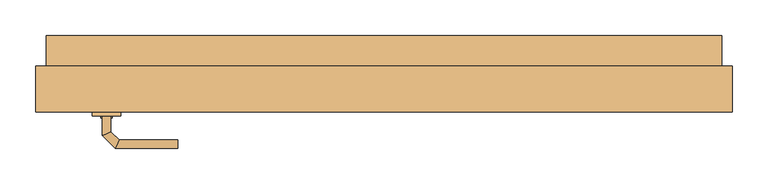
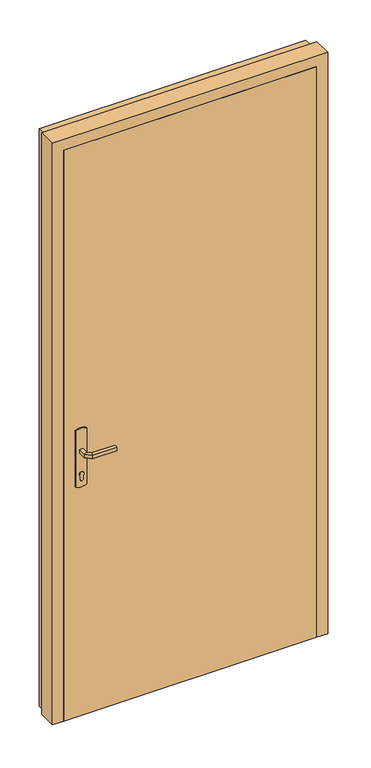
"""IFC4 building model written with IfcOpenShell, lengths in millimetres: door geometry, Entrée (avec angle d'ouverture) : PP Avec moulures (0.90 m x 2.15 m)."""

from ifc_helpers import new_model, si_unit, point, frame, frame_2d, origin, place, context, project, spatial, polyline, circle_curve, ellipse_curve, trimmed, segment, composite_curve, outline, extrude, faceted_brep, source, transform, mapped, element, save
from ifc_brep_helpers import plane_surface, cylinder_surface, advanced_brep


def door_c2c5d6f6(model_context):
    return source(origin(), model_context, "Body", "SolidModel", [
        extrude(outline(composite_curve([segment(trimmed(circle_curve(frame_2d((904.6410162, -400.0)), 40.0), [point((870.0, -420.0))], [point((870.0, -380.0))], False, "CARTESIAN"), True, "CONTINUOUS"), segment(polyline([(870.0, -380.0), (1080.0, -380.0)]), True, "CONTINUOUS"), segment(trimmed(circle_curve(frame_2d((1045.3589838, -400.0)), 40.0), [point((1080.0, -380.0))], [point((1080.0, -420.0))], False, "CARTESIAN"), True, "CONTINUOUS"), segment(polyline([(1080.0, -420.0), (870.0, -420.0)]), True, "CONTINUOUS")], self_intersect=False)), frame((0.0, -113.0, 0.0), z_axis=(0.0, 1.0, 0.0), x_axis=(0.0, 0.0, 1.0)), (0.0, 0.0, 1.0), 5.0),
        extrude(outline(composite_curve([segment(trimmed(circle_curve(frame_2d((1045.3589838, -400.0)), 40.0), [point((1080.0, -380.0))], [point((1080.0, -420.0))], False, "CARTESIAN"), True, "CONTINUOUS"), segment(polyline([(1080.0, -420.0), (870.0, -420.0)]), True, "CONTINUOUS"), segment(trimmed(circle_curve(frame_2d((904.6410162, -400.0)), 40.0), [point((870.0, -420.0))], [point((870.0, -380.0))], False, "CARTESIAN"), True, "CONTINUOUS"), segment(polyline([(870.0, -380.0), (1080.0, -380.0)]), True, "CONTINUOUS")], self_intersect=False)), frame((0.0, -58.0, 0.0), z_axis=(0.0, 1.0, 0.0), x_axis=(0.0, 0.0, 1.0)), (0.0, 0.0, 1.0), 5.0),
        advanced_brep(
        [(-406.0, -113.0, 1007.0), (-394.0, -113.0, 1007.0), (-394.0, -113.0, 993.0), (-406.0, -113.0, 993.0), (-406.0, -140.6509507, 1007.0), (-394.0, -135.680388, 1007.0), (-394.0, -135.680388, 993.0), (-406.0, -140.6509507, 993.0), (-387.62279, -159.0281607, 1007.0), (-382.6522273, -147.0281607, 1007.0), (-382.6522273, -147.0281607, 993.0), (-387.62279, -159.0281607, 993.0), (-299.9813594, -159.0281607, 1007.0), (-299.9813594, -159.0281607, 993.0), (-299.9813594, -147.0281607, 993.0), (-299.9813594, -147.0281607, 1007.0)],
        [
            (0, 1, circle_curve(frame((-400.0, -113.0, 986.9542278), z_axis=(0.0, 1.0, 0.0), x_axis=(1.0, 0.0, 0.0)), 20.9244589)),
            (1, 2),
            (2, 3, circle_curve(frame((-400.0, -113.0, 1013.0457722), z_axis=(0.0, 1.0, 0.0), x_axis=(1.0, 0.0, 0.0)), 20.9244589)),
            (3, 0),
            (0, 4),
            (4, 5, ellipse_curve(frame((-400.0, -138.1656693, 986.9542278), z_axis=(-0.3826834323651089, 0.9238795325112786, 0.0), x_axis=(0.9238795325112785, 0.3826834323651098, 0.0)), 22.6484711, 20.9244589)),
            (5, 1),
            (5, 6),
            (6, 2),
            (6, 7, ellipse_curve(frame((-400.0, -138.1656693, 1013.0457722), z_axis=(-0.3826834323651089, 0.9238795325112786, 0.0), x_axis=(0.9238795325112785, 0.3826834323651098, 0.0)), 22.6484711, 20.9244589)),
            (7, 3),
            (7, 4),
            (4, 8),
            (8, 9, ellipse_curve(frame((-385.1375087, -153.0281607, 986.9542278), z_axis=(-0.9238795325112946, 0.38268343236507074, 0.0), x_axis=(0.3826834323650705, 0.9238795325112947, 0.0)), 22.6484711, 20.9244589)),
            (9, 5),
            (9, 10),
            (10, 6),
            (10, 11, ellipse_curve(frame((-385.1375087, -153.0281607, 1013.0457722), z_axis=(-0.9238795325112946, 0.38268343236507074, 0.0), x_axis=(0.3826834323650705, 0.9238795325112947, 0.0)), 22.6484711, 20.9244589)),
            (11, 7),
            (11, 8),
            (12, 13),
            (13, 14, circle_curve(frame((-299.9813594, -153.0281607, 1013.0457722), z_axis=(1.0, 0.0, 0.0), x_axis=(0.0, 1.0, 0.0)), 20.9244589)),
            (14, 15),
            (15, 12, circle_curve(frame((-299.9813594, -153.0281607, 986.9542278), z_axis=(1.0, 0.0, 0.0), x_axis=(0.0, 1.0, 0.0)), 20.9244589)),
            (8, 12),
            (15, 9),
            (14, 10),
            (13, 11),
        ],
        [
            plane_surface(frame((-409.2195445, -113.0, 1000.0), z_axis=(0.0, 1.0, 0.0), x_axis=(0.0, 0.0, -1.0))),
            cylinder_surface(frame((-400.0, -113.0, 986.9542278), z_axis=(0.0, 1.0, 0.0), x_axis=(1.0, 0.0, 0.0)), 20.9244589),
            plane_surface(frame((-394.0, -113.0, 1007.0), z_axis=(1.0, 0.0, 0.0), x_axis=(0.0, -1.0, 0.0))),
            cylinder_surface(frame((-400.0, -113.0, 1013.0457722), z_axis=(0.0, 1.0, 0.0), x_axis=(1.0, 0.0, 0.0)), 20.9244589),
            plane_surface(frame((-406.0, -113.0, 993.0), z_axis=(-1.0, 0.0, 0.0), x_axis=(0.0, -1.0, 0.0))),
            cylinder_surface(frame((-400.0, -138.1656693, 986.9542278), z_axis=(-0.7071067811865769, 0.7071067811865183, 0.0), x_axis=(0.7071067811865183, 0.7071067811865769, 0.0)), 20.9244589),
            plane_surface(frame((-394.0, -135.680388, 1007.0), z_axis=(0.7071067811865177, 0.7071067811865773, 0.0), x_axis=(0.7071067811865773, -0.7071067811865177, 0.0))),
            cylinder_surface(frame((-400.0, -138.1656693, 1013.0457722), z_axis=(-0.7071067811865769, 0.7071067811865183, 0.0), x_axis=(0.7071067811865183, 0.7071067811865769, 0.0)), 20.9244589),
            plane_surface(frame((-406.0, -140.6509507, 993.0), z_axis=(-0.7071067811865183, -0.7071067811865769, 0.0), x_axis=(0.7071067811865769, -0.7071067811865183, 0.0))),
            plane_surface(frame((-299.9813594, -153.0281607, 990.7804555), z_axis=(1.0, 0.0, 0.0), x_axis=(0.0, 1.0, 0.0))),
            cylinder_surface(frame((-385.1375087, -153.0281607, 986.9542278), z_axis=(-1.0, 0.0, 0.0), x_axis=(0.0, 1.0, 0.0)), 20.9244589),
            plane_surface(frame((-382.6522273, -147.0281607, 1007.0), z_axis=(0.0, 1.0, 0.0), x_axis=(1.0, 0.0, 0.0))),
            cylinder_surface(frame((-385.1375087, -153.0281607, 1013.0457722), z_axis=(-1.0, 0.0, 0.0), x_axis=(0.0, 1.0, 0.0)), 20.9244589),
            plane_surface(frame((-387.62279, -159.0281607, 993.0), z_axis=(0.0, -1.0, 0.0), x_axis=(1.0, 0.0, 0.0))),
        ],
        [
            (0, [[1, 2, 3, 4]]),
            (1, [[-1, 5, 6, 7]]),
            (2, [[-2, -7, 8, 9]]),
            (3, [[-3, -9, 10, 11]]),
            (4, [[-4, -11, 12, -5]]),
            (5, [[-6, 13, 14, 15]]),
            (6, [[-8, -15, 16, 17]]),
            (7, [[-10, -17, 18, 19]]),
            (8, [[-12, -19, 20, -13]]),
            (9, [[21, 22, 23, 24]]),
            (10, [[-14, 25, -24, 26]]),
            (11, [[-16, -26, -23, 27]]),
            (12, [[-18, -27, -22, 28]]),
            (13, [[-20, -28, -21, -25]]),
        ],
    ),
        advanced_brep(
        [(-394.0, -53.0, 993.0), (-394.0, -53.0, 1007.0), (-406.0, -53.0, 1007.0), (-406.0, -53.0, 993.0), (-394.0, -30.5147955, 993.0), (-394.0, -30.5147955, 1007.0), (-406.0, -25.5442327, 1007.0), (-406.0, -25.5442327, 993.0), (-382.5147186, -19.0295141, 993.0), (-382.5147186, -19.0295141, 1007.0), (-387.4852814, -7.0295141, 1007.0), (-387.4852814, -7.0295141, 993.0), (-299.9542164, -19.0295141, 993.0), (-299.9542164, -7.0295141, 993.0), (-299.9542164, -7.0295141, 1007.0), (-299.9542164, -19.0295141, 1007.0)],
        [
            (0, 1),
            (1, 2, circle_curve(frame((-400.0, -53.0, 986.9542278), z_axis=(0.0, -1.0, 0.0), x_axis=(-1.0, 0.0, 0.0)), 20.9244589)),
            (2, 3),
            (3, 0, circle_curve(frame((-400.0, -53.0, 1013.0457722), z_axis=(0.0, -1.0, 0.0), x_axis=(-1.0, 0.0, 0.0)), 20.9244589)),
            (0, 4),
            (4, 5),
            (5, 1),
            (5, 6, ellipse_curve(frame((-400.0, -28.0295141, 986.9542278), z_axis=(-0.3826834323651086, -0.923879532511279, 0.0), x_axis=(0.9238795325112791, -0.3826834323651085, 0.0)), 22.6484711, 20.9244589)),
            (6, 2),
            (6, 7),
            (7, 3),
            (7, 4, ellipse_curve(frame((-400.0, -28.0295141, 1013.0457722), z_axis=(-0.3826834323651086, -0.923879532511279, 0.0), x_axis=(0.9238795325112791, -0.3826834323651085, 0.0)), 22.6484711, 20.9244589)),
            (4, 8),
            (8, 9),
            (9, 5),
            (9, 10, ellipse_curve(frame((-385.0, -13.0295141, 986.9542278), z_axis=(-0.9238795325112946, -0.38268343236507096, 0.0), x_axis=(0.3826834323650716, -0.9238795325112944, 0.0)), 22.6484711, 20.9244589)),
            (10, 6),
            (10, 11),
            (11, 7),
            (11, 8, ellipse_curve(frame((-385.0, -13.0295141, 1013.0457722), z_axis=(-0.9238795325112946, -0.38268343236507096, 0.0), x_axis=(0.3826834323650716, -0.9238795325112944, 0.0)), 22.6484711, 20.9244589)),
            (12, 13, circle_curve(frame((-299.9542164, -13.0295141, 1013.0457722), z_axis=(1.0, 0.0, 0.0), x_axis=(0.0, 1.0, 0.0)), 20.9244589)),
            (13, 14),
            (14, 15, circle_curve(frame((-299.9542164, -13.0295141, 986.9542278), z_axis=(1.0, 0.0, 0.0), x_axis=(0.0, 1.0, 0.0)), 20.9244589)),
            (15, 12),
            (8, 12),
            (15, 9),
            (14, 10),
            (13, 11),
        ],
        [
            plane_surface(frame((-409.2195445, -53.0, 1000.0), z_axis=(0.0, -1.0, 0.0), x_axis=(0.0, 0.0, 1.0))),
            plane_surface(frame((-394.0, -53.0, 993.0), z_axis=(1.0, 0.0, 0.0), x_axis=(0.0, 1.0, 0.0))),
            cylinder_surface(frame((-400.0, -53.0, 986.9542278), z_axis=(0.0, -1.0, 0.0), x_axis=(-1.0, 0.0, 0.0)), 20.9244589),
            plane_surface(frame((-406.0, -53.0, 1007.0), z_axis=(-1.0, 0.0, 0.0), x_axis=(0.0, 1.0, 0.0))),
            cylinder_surface(frame((-400.0, -53.0, 1013.0457722), z_axis=(0.0, -1.0, 0.0), x_axis=(-1.0, 0.0, 0.0)), 20.9244589),
            plane_surface(frame((-394.0, -30.5147955, 993.0), z_axis=(0.7071067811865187, -0.7071067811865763, 0.0), x_axis=(0.7071067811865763, 0.7071067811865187, 0.0))),
            cylinder_surface(frame((-400.0, -28.0295141, 986.9542278), z_axis=(-0.7071067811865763, -0.7071067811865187, 0.0), x_axis=(-0.7071067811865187, 0.7071067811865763, 0.0)), 20.9244589),
            plane_surface(frame((-406.0, -25.5442327, 1007.0), z_axis=(-0.7071067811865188, 0.7071067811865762, 0.0), x_axis=(0.7071067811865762, 0.7071067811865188, 0.0))),
            cylinder_surface(frame((-400.0, -28.0295141, 1013.0457722), z_axis=(-0.7071067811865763, -0.7071067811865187, 0.0), x_axis=(-0.7071067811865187, 0.7071067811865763, 0.0)), 20.9244589),
            plane_surface(frame((-299.9542164, -13.0295141, 990.7804555), z_axis=(1.0, 0.0, 0.0), x_axis=(0.0, 1.0, 0.0))),
            plane_surface(frame((-382.5147186, -19.0295141, 993.0), z_axis=(0.0, -1.0, 0.0), x_axis=(1.0, 0.0, 0.0))),
            cylinder_surface(frame((-385.0, -13.0295141, 986.9542278), z_axis=(-1.0, 0.0, 0.0), x_axis=(0.0, 1.0, 0.0)), 20.9244589),
            plane_surface(frame((-387.4852814, -7.0295141, 1007.0), z_axis=(0.0, 1.0, 0.0), x_axis=(1.0, 0.0, 0.0))),
            cylinder_surface(frame((-385.0, -13.0295141, 1013.0457722), z_axis=(-1.0, 0.0, 0.0), x_axis=(0.0, 1.0, 0.0)), 20.9244589),
        ],
        [
            (0, [[1, 2, 3, 4]]),
            (1, [[-1, 5, 6, 7]]),
            (2, [[-2, -7, 8, 9]]),
            (3, [[-3, -9, 10, 11]]),
            (4, [[-4, -11, 12, -5]]),
            (5, [[-6, 13, 14, 15]]),
            (6, [[-8, -15, 16, 17]]),
            (7, [[-10, -17, 18, 19]]),
            (8, [[-12, -19, 20, -13]]),
            (9, [[21, 22, 23, 24]]),
            (10, [[-14, 25, -24, 26]]),
            (11, [[-16, -26, -23, 27]]),
            (12, [[-18, -27, -22, 28]]),
            (13, [[-20, -28, -21, -25]]),
        ],
    ),
        extrude(outline(composite_curve([segment(polyline([(908.0464422, -405.0), (895.0, -405.0)]), True, "CONTINUOUS"), segment(trimmed(circle_curve(frame_2d((895.0, -400.0)), 5.0), [point((895.0, -405.0))], [point((895.0, -395.0))], False, "CARTESIAN"), True, "CONTINUOUS"), segment(polyline([(895.0, -395.0), (908.0464422, -395.0)]), True, "CONTINUOUS"), segment(trimmed(circle_curve(frame_2d((914.2914402, -400.0)), 8.0), [point((908.0464422, -395.0))], [point((908.0464422, -405.0))], False, "CARTESIAN"), True, "CONTINUOUS")], self_intersect=False)), frame((0.0, -116.0, 0.0), z_axis=(0.0, 1.0, 0.0), x_axis=(0.0, 0.0, 1.0)), (0.0, 0.0, 1.0), 3.0),
        extrude(outline(composite_curve([segment(polyline([(908.0464422, -405.0), (895.0, -405.0)]), True, "CONTINUOUS"), segment(trimmed(circle_curve(frame_2d((895.0, -400.0)), 5.0), [point((895.0, -405.0))], [point((895.0, -395.0))], False, "CARTESIAN"), True, "CONTINUOUS"), segment(polyline([(895.0, -395.0), (908.0464422, -395.0)]), True, "CONTINUOUS"), segment(trimmed(circle_curve(frame_2d((914.2914402, -400.0)), 8.0), [point((908.0464422, -395.0))], [point((908.0464422, -405.0))], False, "CARTESIAN"), True, "CONTINUOUS")], self_intersect=False)), frame((0.0, -53.0, 0.0), z_axis=(0.0, 1.0, 0.0), x_axis=(0.0, 0.0, 1.0)), (0.0, 0.0, 1.0), 5.0),
        faceted_brep([(440.0, -108.0, 2150.0), (-460.0, -108.0, 2150.0), (-460.0, -108.0, 0.0), (440.0, -108.0, 0.0), (440.0, -58.0, 2150.0), (440.0, -58.0, 0.0), (-460.0, -58.0, 0.0), (-460.0, -58.0, 2150.0), (-340.0, -58.0, 2030.0), (-340.0, -58.0, 883.3333333), (320.0, -58.0, 883.3333333), (320.0, -58.0, 2030.0), (20.0, -58.0, 763.3333333), (20.0, -58.0, 220.0), (320.0, -58.0, 220.0), (320.0, -58.0, 763.3333333), (-340.0, -58.0, 763.3333333), (-340.0, -58.0, 220.0), (-40.0, -58.0, 220.0), (-40.0, -58.0, 763.3333333), (-305.0, -58.0, 918.3333333), (-305.0, -58.0, 1995.0), (285.0, -58.0, 1995.0), (285.0, -58.0, 918.3333333), (55.0, -58.0, 255.0), (55.0, -58.0, 728.3333333), (285.0, -58.0, 728.3333333), (285.0, -58.0, 255.0), (-305.0, -58.0, 255.0), (-305.0, -58.0, 728.3333333), (-75.0, -58.0, 728.3333333), (-75.0, -58.0, 255.0), (-336.4644661, -61.5355339, 2026.4644661), (-336.4644661, -61.5355339, 886.8688672), (-308.5355339, -61.5355339, 914.7977994), (-308.5355339, -61.5355339, 1998.5355339), (-312.6388478, -59.8966861, 910.6944856), (-312.6388478, -59.8966861, 2002.6388478), (-311.0, -61.5355339, 2001.0), (-311.0, -61.5355339, 912.3333333), (-334.0, -61.5355339, 889.3333333), (-334.0, -61.5355339, 2024.0), (-332.3611522, -59.8966861, 2022.3611522), (-332.3611522, -59.8966861, 890.9721811), (316.4644661, -61.5355339, 2026.4644661), (288.5355339, -61.5355339, 1998.5355339), (292.6388478, -59.8966861, 2002.6388478), (291.0, -61.5355339, 2001.0), (314.0, -61.5355339, 2024.0), (312.3611522, -59.8966861, 2022.3611522), (316.4644661, -61.5355339, 886.8688672), (288.5355339, -61.5355339, 914.7977994), (292.6388478, -59.8966861, 910.6944856), (291.0, -61.5355339, 912.3333333), (314.0, -61.5355339, 889.3333333), (312.3611522, -59.8966861, 890.9721811), (23.5355339, -61.5355339, 759.7977994), (23.5355339, -61.5355339, 223.5355339), (51.4644661, -61.5355339, 251.4644661), (51.4644661, -61.5355339, 731.8688672), (47.3611522, -59.8966861, 247.3611522), (47.3611522, -59.8966861, 735.9721811), (49.0, -61.5355339, 734.3333333), (49.0, -61.5355339, 249.0), (26.0, -61.5355339, 226.0), (26.0, -61.5355339, 757.3333333), (27.6388478, -59.8966861, 755.6944856), (27.6388478, -59.8966861, 227.6388478), (316.4644661, -61.5355339, 759.7977994), (288.5355339, -61.5355339, 731.8688672), (292.6388478, -59.8966861, 735.9721811), (291.0, -61.5355339, 734.3333333), (314.0, -61.5355339, 757.3333333), (312.3611522, -59.8966861, 755.6944856), (316.4644661, -61.5355339, 223.5355339), (288.5355339, -61.5355339, 251.4644661), (292.6388478, -59.8966861, 247.3611522), (291.0, -61.5355339, 249.0), (314.0, -61.5355339, 226.0), (312.3611522, -59.8966861, 227.6388478), (-336.4644661, -61.5355339, 759.7977994), (-336.4644661, -61.5355339, 223.5355339), (-308.5355339, -61.5355339, 251.4644661), (-308.5355339, -61.5355339, 731.8688672), (-312.6388478, -59.8966861, 247.3611522), (-312.6388478, -59.8966861, 735.9721811), (-311.0, -61.5355339, 734.3333333), (-311.0, -61.5355339, 249.0), (-334.0, -61.5355339, 226.0), (-334.0, -61.5355339, 757.3333333), (-332.3611522, -59.8966861, 755.6944856), (-332.3611522, -59.8966861, 227.6388478), (-43.5355339, -61.5355339, 759.7977994), (-71.4644661, -61.5355339, 731.8688672), (-67.3611522, -59.8966861, 735.9721811), (-69.0, -61.5355339, 734.3333333), (-46.0, -61.5355339, 757.3333333), (-47.6388478, -59.8966861, 755.6944856), (-43.5355339, -61.5355339, 223.5355339), (-71.4644661, -61.5355339, 251.4644661), (-67.3611522, -59.8966861, 247.3611522), (-69.0, -61.5355339, 249.0), (-46.0, -61.5355339, 226.0), (-47.6388478, -59.8966861, 227.6388478)], [[[0, 1, 2, 3]], [[4, 5, 6, 7], [8, 9, 10, 11], [12, 13, 14, 15], [16, 17, 18, 19]], [[20, 21, 22, 23]], [[24, 25, 26, 27]], [[28, 29, 30, 31]], [[1, 0, 4, 7]], [[2, 1, 7, 6]], [[3, 2, 6, 5]], [[0, 3, 5, 4]], [[8, 32, 33, 9]], [[34, 35, 21, 20]], [[36, 37, 38, 39]], [[40, 41, 42, 43]], [[32, 8, 11, 44]], [[21, 35, 45, 22]], [[38, 37, 46, 47]], [[42, 41, 48, 49]], [[44, 11, 10, 50]], [[22, 45, 51, 23]], [[47, 46, 52, 53]], [[49, 48, 54, 55]], [[9, 33, 50, 10]], [[34, 20, 23, 51]], [[39, 38, 47, 53], [35, 34, 51, 45]], [[36, 39, 53, 52]], [[43, 42, 49, 55], [37, 36, 52, 46]], [[40, 43, 55, 54]], [[33, 32, 44, 50], [41, 40, 54, 48]], [[12, 56, 57, 13]], [[58, 59, 25, 24]], [[60, 61, 62, 63]], [[64, 65, 66, 67]], [[56, 12, 15, 68]], [[25, 59, 69, 26]], [[62, 61, 70, 71]], [[66, 65, 72, 73]], [[68, 15, 14, 74]], [[26, 69, 75, 27]], [[71, 70, 76, 77]], [[73, 72, 78, 79]], [[13, 57, 74, 14]], [[58, 24, 27, 75]], [[63, 62, 71, 77], [59, 58, 75, 69]], [[60, 63, 77, 76]], [[67, 66, 73, 79], [61, 60, 76, 70]], [[64, 67, 79, 78]], [[57, 56, 68, 74], [65, 64, 78, 72]], [[16, 80, 81, 17]], [[82, 83, 29, 28]], [[84, 85, 86, 87]], [[88, 89, 90, 91]], [[80, 16, 19, 92]], [[29, 83, 93, 30]], [[86, 85, 94, 95]], [[90, 89, 96, 97]], [[92, 19, 18, 98]], [[30, 93, 99, 31]], [[95, 94, 100, 101]], [[97, 96, 102, 103]], [[17, 81, 98, 18]], [[82, 28, 31, 99]], [[87, 86, 95, 101], [83, 82, 99, 93]], [[84, 87, 101, 100]], [[91, 90, 97, 103], [85, 84, 100, 94]], [[88, 91, 103, 102]], [[81, 80, 92, 98], [89, 88, 102, 96]]]),
        faceted_brep([(-440.0, -58.0, 0.0), (420.0, -58.0, 0.0), (420.0, -58.0, 150.0), (410.0, -58.0, 160.0), (-430.0, -58.0, 160.0), (-440.0, -58.0, 150.0), (420.0, -43.0, 0.0), (-440.0, -43.0, 0.0), (-440.0, -43.0, 150.0), (420.0, -43.0, 150.0), (410.0, -53.0, 160.0), (-430.0, -53.0, 160.0)], [[[0, 1, 2, 3, 4, 5]], [[6, 7, 8, 9]], [[7, 0, 5, 8]], [[1, 0, 7, 6]], [[1, 6, 9, 2]], [[4, 3, 10, 11]], [[9, 10, 3, 2]], [[10, 9, 8, 11]], [[11, 8, 5, 4]]]),
        faceted_brep([(-500.0, -43.0, 0.0), (-445.0, -43.0, 0.0), (-445.0, -58.0, 0.0), (-460.0, -58.0, 0.0), (-460.0, -108.0, 0.0), (-500.0, -108.0, 0.0), (-500.0, -43.0, 2190.0), (480.0, -43.0, 2190.0), (480.0, -43.0, 0.0), (425.0, -43.0, 0.0), (425.0, -43.0, 2135.0), (-445.0, -43.0, 2135.0), (-445.0, -58.0, 2135.0), (425.0, -58.0, 2135.0), (425.0, -58.0, 0.0), (440.0, -58.0, 0.0), (440.0, -58.0, 2150.0), (-460.0, -58.0, 2150.0), (-460.0, -108.0, 2150.0), (440.0, -108.0, 2150.0), (440.0, -108.0, 0.0), (480.0, -108.0, 0.0), (480.0, -108.0, 2190.0), (-500.0, -108.0, 2190.0)], [[[0, 1, 2, 3, 4, 5]], [[1, 0, 6, 7, 8, 9, 10, 11]], [[2, 1, 11, 12]], [[3, 2, 12, 13, 14, 15, 16, 17]], [[4, 3, 17, 18]], [[5, 4, 18, 19, 20, 21, 22, 23]], [[0, 5, 23, 6]], [[7, 22, 21, 8]], [[8, 21, 20, 15, 14, 9]], [[13, 10, 9, 14]], [[19, 16, 15, 20]], [[12, 11, 10, 13]], [[18, 17, 16, 19]], [[6, 23, 22, 7]]]),
        extrude(outline(polyline([(0.0, -485.0), (0.0, -470.0), (2160.0, -470.0), (2160.0, 450.0), (0.0, 450.0), (0.0, 465.0), (2175.0, 465.0), (2175.0, -485.0), (0.0, -485.0)])), frame((0.0, -43.0, 0.0), z_axis=(0.0, 1.0, 0.0), x_axis=(0.0, 0.0, 1.0)), (0.0, 0.0, 1.0), 43.0),
    ])


if __name__ == "__main__":
    model = new_model("IFC4")
    model_context = context("Model", 3, world=origin())
    ifc_project = project(units=[si_unit("LENGTHUNIT", "METRE", prefix="MILLI")], contexts=[model_context])
    site = spatial("IfcSite", under=ifc_project)
    building = spatial("IfcBuilding", under=site)
    placement = place(None, origin())
    door_shape = door_c2c5d6f6(model_context)
    element("IfcDoor", 1, ObjectType="Entrée (avec angle d'ouverture) : PP Avec moulures (0.90 m x 2.15 m)", at=placement, inside=building, context=model_context, shape_type="MappedRepresentation", body=[
        mapped(door_shape, transform((0.0, 0.0, 0.0), x_axis=(1.0, 0.0, 0.0), y_axis=(0.0, 1.0, 0.0), z_axis=(0.0, 0.0, 1.0))),
    ])
    save(model, "model.ifc")
